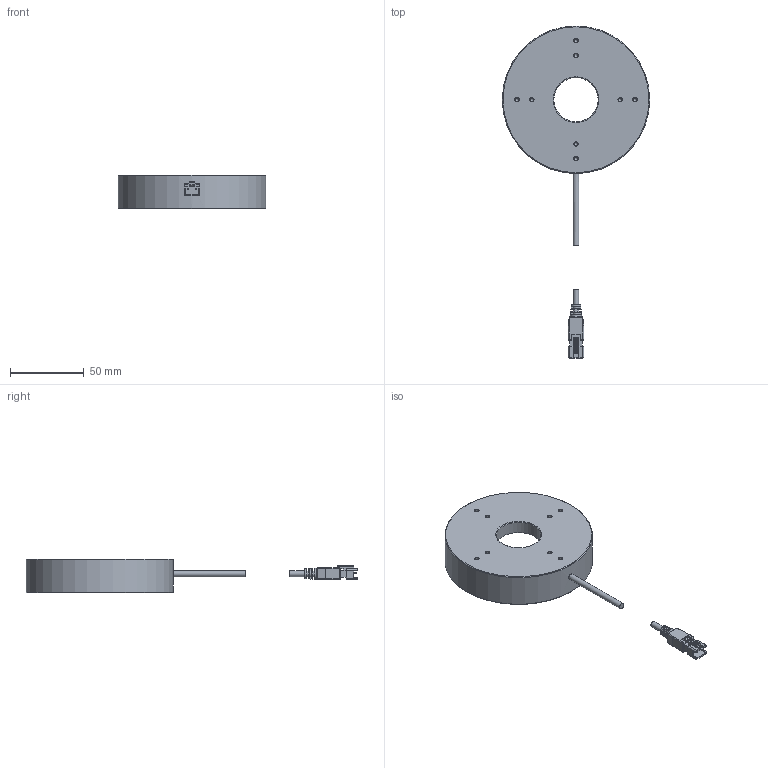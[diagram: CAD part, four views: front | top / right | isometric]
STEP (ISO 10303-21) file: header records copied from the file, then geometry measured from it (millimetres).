
FILE_DESCRIPTION(('STEP AP214'),'1');
FILE_NAME('DC-30D-102W.stp','2026-04-09T09:38:05',(' '),(' '),'Spatial InterOp 3D',' ',' ');
FILE_SCHEMA(('AUTOMOTIVE_DESIGN { 1 0 10303 214 1 1 1 1 }'));
Length unit declared in the file: metre
Products named in the file (3): DC-30D-102W; Component1; Component2
Assembly tree (2 placements, depth 2):
  DC-30D-102W
    Component1
    Component2
Bounding box: 100 x 225.13 x 23 mm (x, y, z)
Volume: 142445.6 mm3; surface area: 25703.3 mm2
Topology: 2 solids, 2 shells, 189 faces, 486 edges, 304 vertices
Faces by surface type: plane 111, cylinder 45, cone 21, bspline 4, torus 4, sphere 4
Full cylindrical faces by diameter (mm): 2.5 x8, 3.9 x1, 4 x1, 30 x1, 75 x1, 100 x1
Entity records: 9367 total; most frequent: CARTESIAN_POINT 1476, DIRECTION 885, ORIENTED_EDGE 854, STYLED_ITEM 583, PRESENTATION_STYLE_ASSIGNMENT 583, COLOUR_RGB 583, EDGE_CURVE 427, CURVE_STYLE 392
